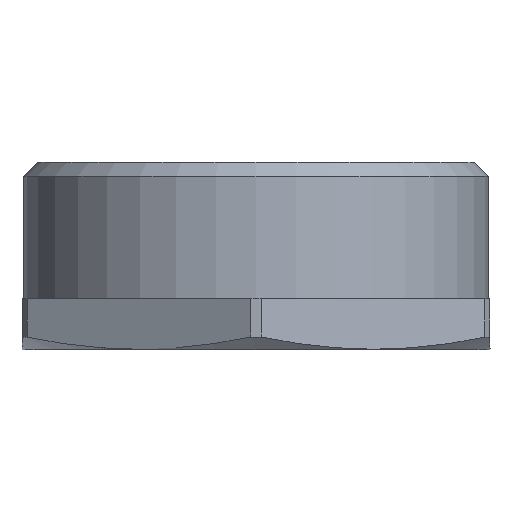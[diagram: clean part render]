
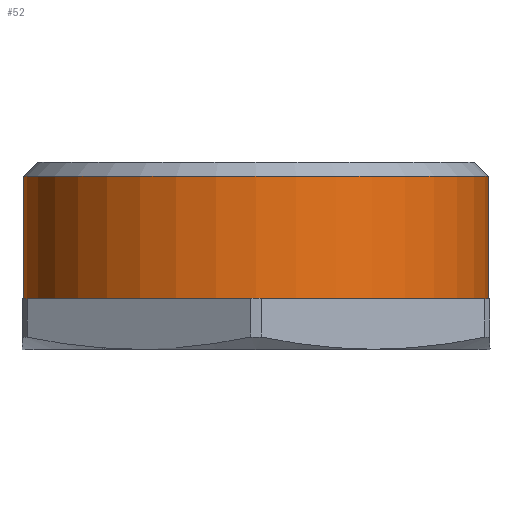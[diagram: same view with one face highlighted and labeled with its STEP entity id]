
A CAD part, top view. The second image highlights one B-rep face of the part: STEP entity #52.
In plain terms, the highlighted cylindrical face has radius 29.807 mm (diameter 59.614 mm), a full revolution.
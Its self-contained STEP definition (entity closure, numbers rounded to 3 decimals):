
#52=ADVANCED_FACE('',(#132,#134),#136,.T.);
#132=FACE_OUTER_BOUND('',#133,.T.);
#133=EDGE_LOOP('',(#283));
#134=FACE_OUTER_BOUND('',#135,.T.);
#135=EDGE_LOOP('',(#284));
#136=CYLINDRICAL_SURFACE('',#137,29.807);
#137=AXIS2_PLACEMENT_3D('',#138,#139,#140);
#138=CARTESIAN_POINT('',(0.,0.,0.));
#139=DIRECTION('',(0.,1.,0.));
#140=DIRECTION('',(-1.,0.,0.));
#283=ORIENTED_EDGE('',*,*,#363,.F.);
#284=ORIENTED_EDGE('',*,*,#380,.T.);
#363=EDGE_CURVE('',#423,#423,#424,.T.);
#380=EDGE_CURVE('',#453,#453,#454,.T.);
#423=VERTEX_POINT('',#536);
#424=CIRCLE('',#537,29.807);
#453=VERTEX_POINT('',#808);
#454=CIRCLE('',#809,29.807);
#536=CARTESIAN_POINT('',(-29.807,22.2,0.));
#537=AXIS2_PLACEMENT_3D('',#538,#539,#540);
#538=CARTESIAN_POINT('',(0.,22.2,0.));
#539=DIRECTION('',(0.,1.,0.));
#540=DIRECTION('',(-1.,0.,0.));
#808=CARTESIAN_POINT('',(-29.807,6.5,0.));
#809=AXIS2_PLACEMENT_3D('',#810,#811,#812);
#810=CARTESIAN_POINT('',(0.,6.5,0.));
#811=DIRECTION('',(0.,1.,0.));
#812=DIRECTION('',(-1.,0.,0.));
